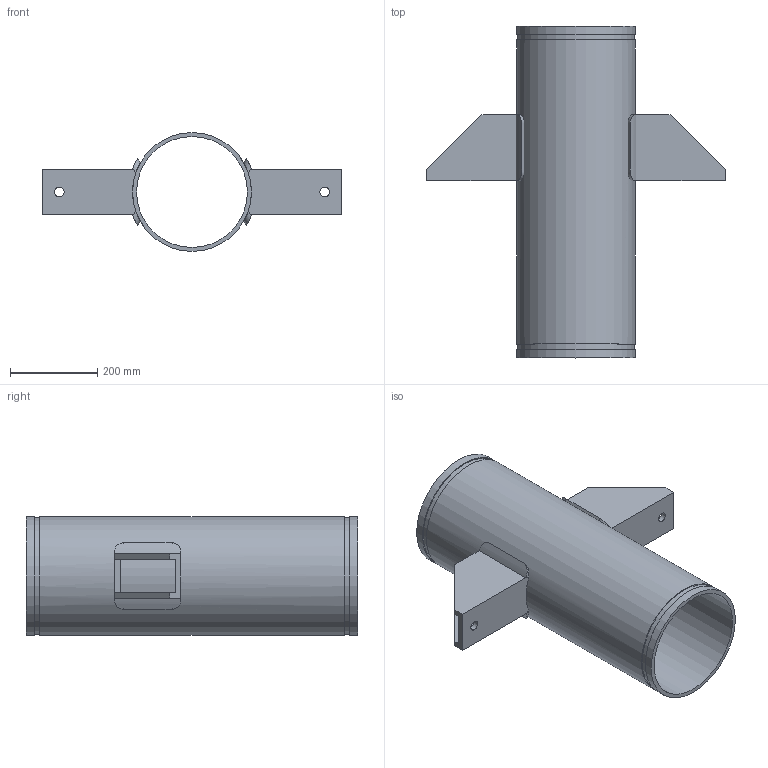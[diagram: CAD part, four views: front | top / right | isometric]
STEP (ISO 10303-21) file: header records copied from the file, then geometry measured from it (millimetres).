
FILE_DESCRIPTION(/* description */ ('VIC Floor-Mounted Carbon Steel Riser Anchor No A10','CAx-IF Rec.Pracs.---Representation and Presentation of Product Manufacturing Information (PMI)---4.0---2014-10-13'),/* implementation_level */ '2;1');
FILE_NAME(/* name */ 'C:\Users\kkamble\AppData\Roaming\Autodesk\ApplicationPlugins\Back Up\Victaulic_SS-OGS_Riser Anchor_No A10 (OGS)\Victaulic_SS-OGS_Riser Anchor_No A10 (OGS)_10 (250).stp',/* time_stamp */ '2020-08-25T18:07:00+06:00',/* author */ ('kkamble'),/* organization */ ('Victaulic'),/* preprocessor_version */ 'ST-DEVELOPER v17.2',/* originating_system */ 'Autodesk Inventor 2019',/* authorisation */ '');
FILE_SCHEMA (('AP242_MANAGED_MODEL_BASED_3D_ENGINEERING_MIM_LF { 1 0 10303 442 1 1 4 }'));
Length unit declared in the file: inch
Products named in the file (1): A10S-10.0
Bounding box: 685.8 x 762 x 273.05 mm (x, y, z)
Volume: 7914778.7 mm3; surface area: 1573154.5 mm2
Topology: 1 solids, 1 shells, 56 faces, 155 edges, 106 vertices
Faces by surface type: plane 34, cylinder 22
Full cylindrical faces by diameter (mm): 22.225 x2, 254.508 x1, 268.275 x2, 273.05 x3
Entity records: 2249 total; most frequent: CARTESIAN_POINT 607, DIRECTION 325, ORIENTED_EDGE 310, EDGE_CURVE 155, AXIS2_PLACEMENT_3D 116, VERTEX_POINT 106, LINE 93, VECTOR 93
